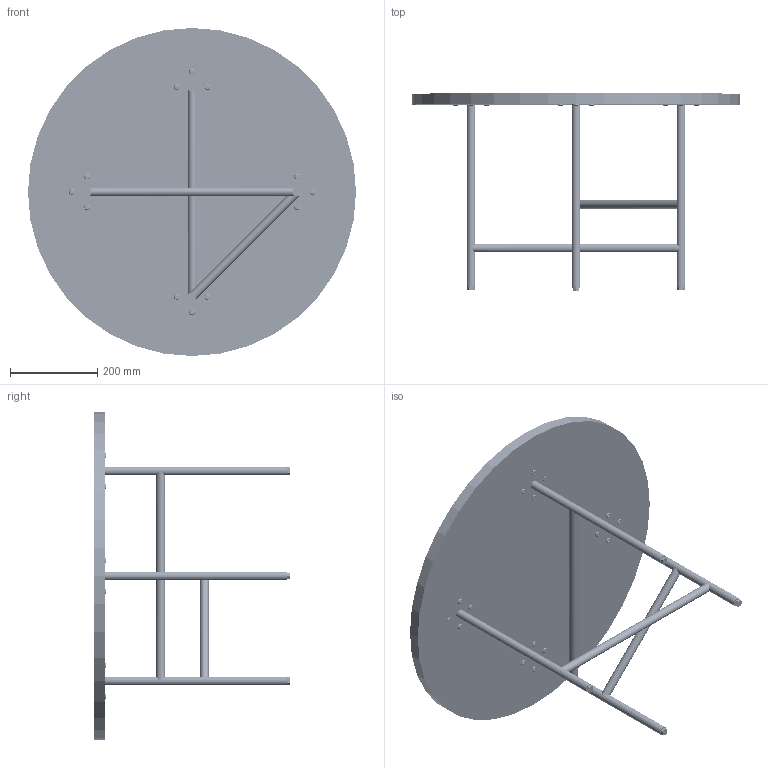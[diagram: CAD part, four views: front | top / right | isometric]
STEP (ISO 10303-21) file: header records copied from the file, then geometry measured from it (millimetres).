
FILE_DESCRIPTION (( 'STEP AP214' ), '1' );
FILE_NAME ('Step- Up Table - D750XH450.STEP', '2024-04-05T05:46:11', ( '' ), ( '' ), 'SwSTEP 2.0', 'SolidWorks 2023', '' );
FILE_SCHEMA (( 'AUTOMOTIVE_DESIGN' ));
Length unit declared in the file: millimetre
Products named in the file (6): Wooden TopR - 01; Step- Up Table - D750XH450; Metal FrameR - 01_Default<As Machined>; Wood insert nut_M6R - 01; M6x16MM Flate head allen BoltR - 01; M6x20MM Hex LevellerR - 01
Assembly tree (38 placements, depth 2):
  Step- Up Table - D750XH450
    Metal FrameR - 01_Default<As Machined>
    Wooden TopR - 01
    M6x16MM Flate head allen BoltR - 01  x16
    M6x20MM Hex LevellerR - 01  x4
    Wood insert nut_M6R - 01  x16
Bounding box: 750 x 450 x 750 mm (x, y, z)
Volume: 11508707.3 mm3; surface area: 1347595.6 mm2
Topology: 52 solids, 52 shells, 1980 faces, 5083 edges, 3262 vertices
Faces by surface type: cylinder 1182, plane 518, torus 124, bspline 92, cone 64
Entity records: 17377 total; most frequent: CARTESIAN_POINT 9093, ORIENTED_EDGE 1640, DIRECTION 1639, EDGE_CURVE 820, AXIS2_PLACEMENT_3D 668, VERTEX_POINT 538, EDGE_LOOP 424, ADVANCED_FACE 342
